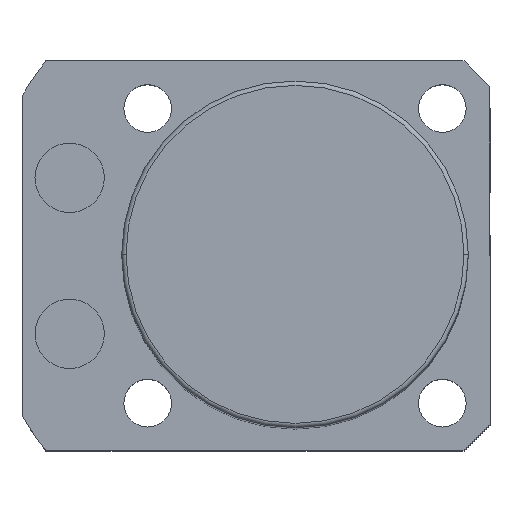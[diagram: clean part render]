
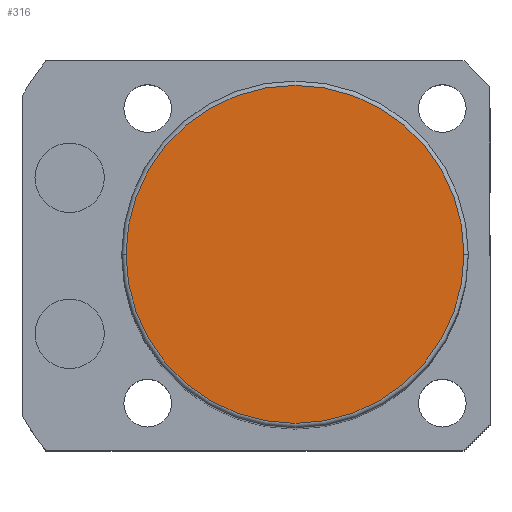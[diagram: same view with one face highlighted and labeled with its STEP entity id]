
A CAD part, top view. The second image highlights one B-rep face of the part: STEP entity #316.
In plain terms, the highlighted planar face has unit normal (0, 0, 1).
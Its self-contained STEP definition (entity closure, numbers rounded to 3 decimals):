
#316 = ADVANCED_FACE ( 'NONE', ( #512 ), #1842, .T. ) ;
#512 = FACE_OUTER_BOUND ( 'NONE', #5283, .T. ) ;
#543 = CARTESIAN_POINT ( 'NONE',  ( 0., 0., 108.5 ) ) ;
#761 = CARTESIAN_POINT ( 'NONE',  ( 19.5, 0., 108.5 ) ) ;
#811 = ORIENTED_EDGE ( 'NONE', *, *, #2449, .T. ) ;
#1022 = CIRCLE ( 'NONE', #5580, 19.5 ) ;
#1278 = CARTESIAN_POINT ( 'NONE',  ( 0., 0., 108.5 ) ) ;
#1387 = ORIENTED_EDGE ( 'NONE', *, *, #4678, .T. ) ;
#1842 = PLANE ( 'NONE',  #5155 ) ;
#1849 = CARTESIAN_POINT ( 'NONE',  ( -19.5, 0., 108.5 ) ) ;
#2449 = EDGE_CURVE ( 'NONE', #4220, #4256, #1022, .T. ) ;
#3272 = DIRECTION ( 'NONE',  ( 1., 0., 0. ) ) ;
#3926 = AXIS2_PLACEMENT_3D ( 'NONE', #4213, #4655, #3272 ) ;
#4213 = CARTESIAN_POINT ( 'NONE',  ( 0., 0., 108.5 ) ) ;
#4220 = VERTEX_POINT ( 'NONE', #761 ) ;
#4256 = VERTEX_POINT ( 'NONE', #1849 ) ;
#4468 = DIRECTION ( 'NONE',  ( 1., 0., 0. ) ) ;
#4655 = DIRECTION ( 'NONE',  ( 0., 0., 1. ) ) ;
#4678 = EDGE_CURVE ( 'NONE', #4256, #4220, #5962, .T. ) ;
#5032 = DIRECTION ( 'NONE',  ( 1., 0., 0. ) ) ;
#5155 = AXIS2_PLACEMENT_3D ( 'NONE', #543, #5525, #5032 ) ;
#5283 = EDGE_LOOP ( 'NONE', ( #811, #1387 ) ) ;
#5525 = DIRECTION ( 'NONE',  ( 0., 0., 1. ) ) ;
#5580 = AXIS2_PLACEMENT_3D ( 'NONE', #1278, #5850, #4468 ) ;
#5850 = DIRECTION ( 'NONE',  ( 0., 0., 1. ) ) ;
#5962 = CIRCLE ( 'NONE', #3926, 19.5 ) ;
